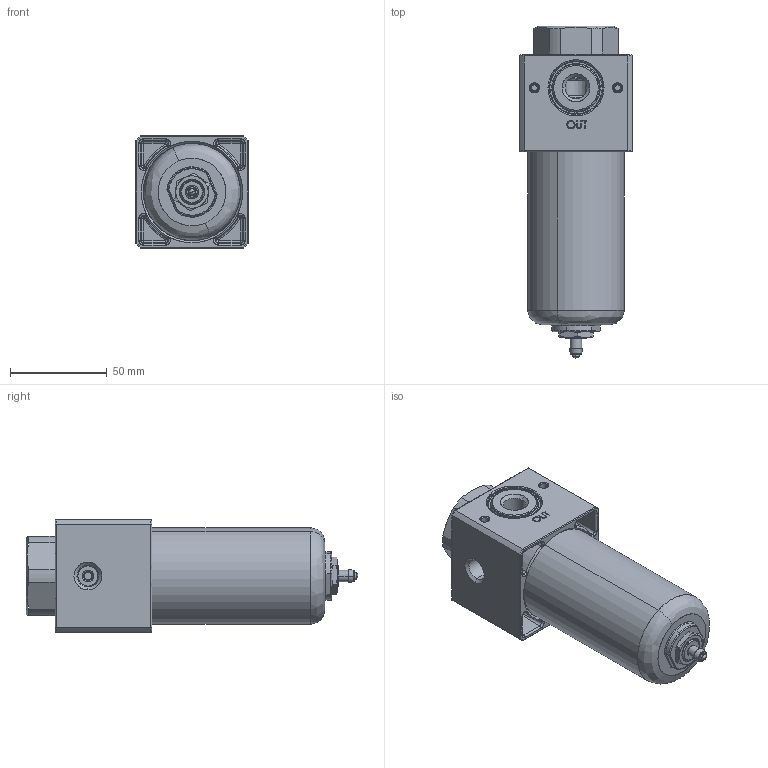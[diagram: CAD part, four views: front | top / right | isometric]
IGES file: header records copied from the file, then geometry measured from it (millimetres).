
Start section: SolidWorks IGES file using analytic representation for surfaces
Bounding box: 58 x 171.62 x 58 mm (x, y, z)
Surface area: 78521.5 mm2 (no closed solid volume)
Topology: 0 solids, 0 shells, 644 faces, 8883 edges, 8876 vertices
Faces by surface type: bspline 340, revolution 304
